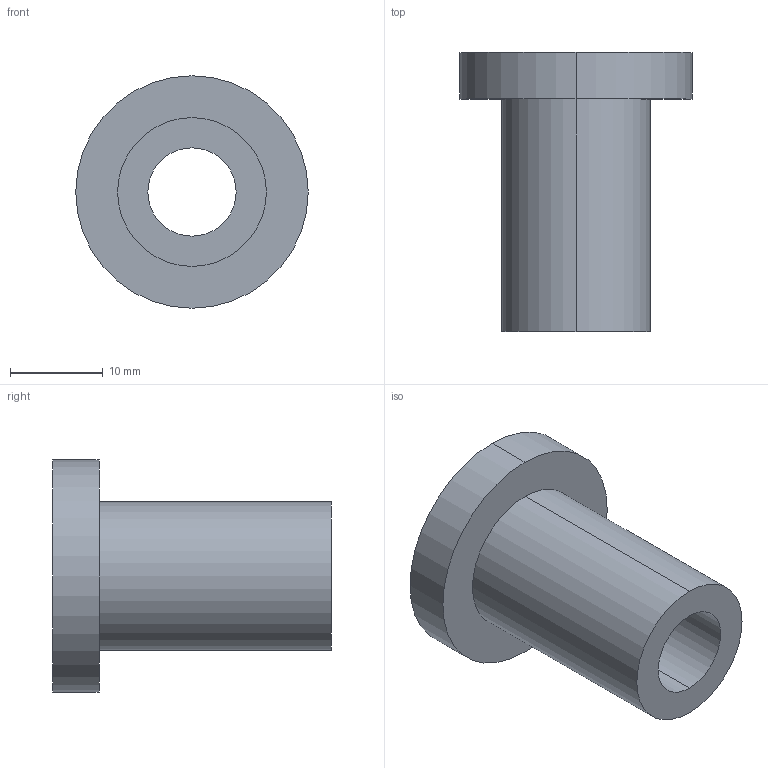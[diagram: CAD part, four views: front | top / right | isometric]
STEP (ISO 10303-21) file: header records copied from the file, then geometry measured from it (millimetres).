
FILE_DESCRIPTION (( 'STEP AP214' ), '1' );
FILE_NAME ('Fine Adjustment Screw.STEP', '2023-01-19T17:27:45', ( '' ), ( '' ), 'SwSTEP 2.0', 'SolidWorks 2021', '' );
FILE_SCHEMA (( 'AUTOMOTIVE_DESIGN' ));
Length unit declared in the file: millimetre
Products named in the file (1): Fine Adjustment Screw
Bounding box: 25 x 30 x 25 mm (x, y, z)
Volume: 5354.5 mm3; surface area: 3384.7 mm2
Topology: 1 solids, 1 shells, 9 faces, 18 edges, 12 vertices
Faces by surface type: cylinder 6, plane 3
Entity records: 304 total; most frequent: DIRECTION 50, CARTESIAN_POINT 40, ORIENTED_EDGE 36, AXIS2_PLACEMENT_3D 22, EDGE_CURVE 18, EDGE_LOOP 12, CIRCLE 12, VERTEX_POINT 12
